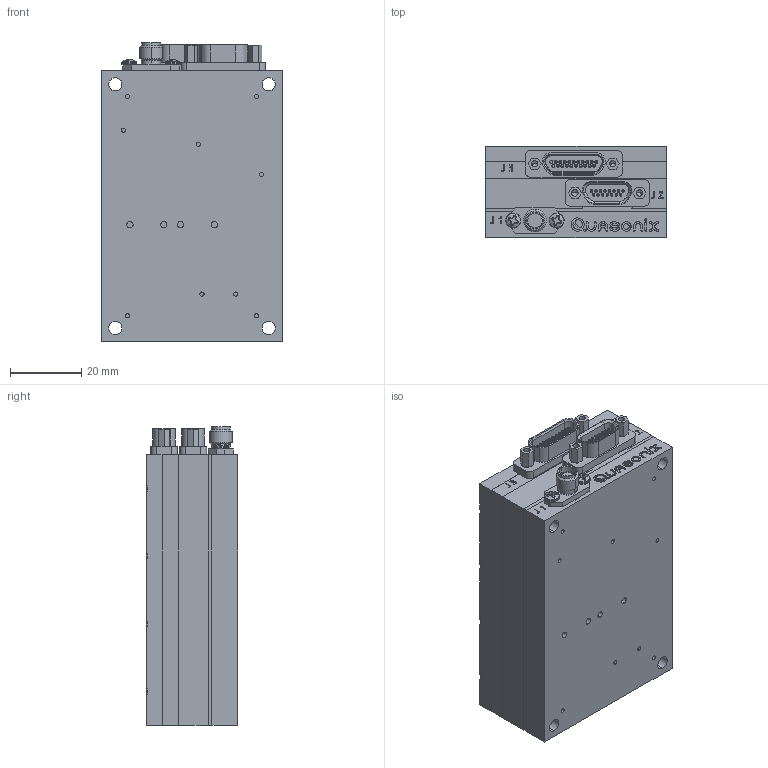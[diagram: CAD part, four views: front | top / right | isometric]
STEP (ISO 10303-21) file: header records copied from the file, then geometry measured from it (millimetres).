
FILE_DESCRIPTION (( 'STEP AP203' ), '1' );
FILE_NAME ('06AG_3-27-14.STEP', '2014-03-27T18:38:01', ( '' ), ( '' ), 'SwSTEP 2.0', 'SolidWorks 2014', '' );
FILE_SCHEMA (( 'CONFIG_CONTROL_DESIGN' ));
Length unit declared in the file: inch
Products named in the file (14): GLENAIR-SOCKET-MDM21-M8351304-C06N; RADIALL-SMA_TO_MMBX-FLANGEMOUNT-ADAPTER; 06AG_3-27-14; QSX-2_56-JACKPOST-; MCMASTER-CARR-PAN-HEAD-PHILLIPS-#2-56X0.1875-91772A076_91772A076; QSX-TTS-23-DPH-F; QSX-TTS-23-DPC-K; QSX-T2-23-20PA-I; MCMASTER-CARR-FLAT-HEAD-PHILLIPS-#2-56X0.875-91771A085_CR-FHMS 0.086-56x0.4375x0.4375-N; QSX-T3-2X3-SHLD-E; QSX-3BTX-2.5X3.5-PRGMCVR-; QSX-TTS-23-DMP_NOMOD-F; MCMASTER-CARR-FLAT-HEAD-PHILLIPS-#0-80X0.125-91771A052_91771A052; GLENAIR-SOCKET-MDM15-M8351304-B05N
Assembly tree (33 placements, depth 2):
  06AG_3-27-14
    QSX-T2-23-20PA-I
    QSX-T3-2X3-SHLD-E
    QSX-TTS-23-DMP_NOMOD-F
    GLENAIR-SOCKET-MDM15-M8351304-B05N
    RADIALL-SMA_TO_MMBX-FLANGEMOUNT-ADAPTER
    QSX-2_56-JACKPOST-  x4
    MCMASTER-CARR-PAN-HEAD-PHILLIPS-#2-56X0.1875-91772A076_91772A076  x2
    QSX-TTS-23-DPH-F
    QSX-TTS-23-DPC-K
    MCMASTER-CARR-FLAT-HEAD-PHILLIPS-#2-56X0.875-91771A085_CR-FHMS 0.086-56x0.4375x0.4375-N  x10
    QSX-3BTX-2.5X3.5-PRGMCVR-  x3
    MCMASTER-CARR-FLAT-HEAD-PHILLIPS-#0-80X0.125-91771A052_91771A052  x6
    GLENAIR-SOCKET-MDM21-M8351304-C06N
Bounding box: 50.8 x 25.7 x 84.14 mm (x, y, z)
Volume: 32330.7 mm3; surface area: 56679.8 mm2
Topology: 54 solids, 54 shells, 3505 faces, 9351 edges, 6058 vertices
Faces by surface type: cylinder 1517, plane 1341, cone 442, bspline 117, torus 82, sphere 6
Entity records: 93736 total; most frequent: CARTESIAN_POINT 22279, ORIENTED_EDGE 14652, DIRECTION 14552, EDGE_CURVE 7326, AXIS2_PLACEMENT_3D 5260, VERTEX_POINT 4825, LINE 4032, VECTOR 4032
